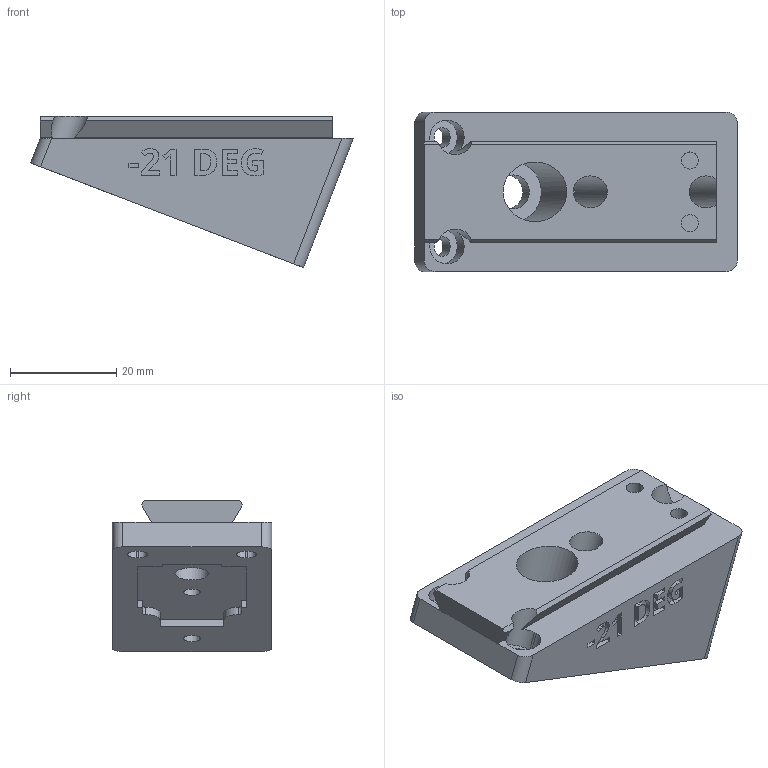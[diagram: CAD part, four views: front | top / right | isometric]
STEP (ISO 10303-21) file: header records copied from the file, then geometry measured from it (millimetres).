
FILE_DESCRIPTION(/* description */ ('STEP AP242 Edition 2','CAx-IF Rec.Pracs.---Representation and Presentation of Product Manufacturing Information (PMI)---4.0---2014-10-13','CAx-IF Rec.Pracs.---3D Tessellated Geometry---0.4---2014-09-14','2;1','CAx-IF Rec.Pracs.---User Defined Attributes---1.5---2016-08-15'),/* implementation_level */ '2;1');
FILE_NAME(/* name */ 'Camera Wedges - CAMERA MOUNTING WEDGE, NEG, -21 DEG',/* time_stamp */ '2026-07-08T20:35:31Z',/* author */ (''),/* organization */ (''),/* preprocessor_version */ 'ST-DEVELOPER v20',/* originating_system */ 'ONSHAPE BY PTC INC, 1.217',/* authorisation */ ' ');
FILE_SCHEMA (('AP242_MANAGED_MODEL_BASED_3D_ENGINEERING_MIM_LF { 1 0 10303 442 3 1 4 }'));
Length unit declared in the file: metre
Products named in the file (1): CAMERA MOUNTING WEDGE, NEG, -21 DEG
Bounding box: 60.7 x 30 x 28.47 mm (x, y, z)
Volume: 25759.4 mm3; surface area: 8569.2 mm2
Topology: 1 solids, 1 shells, 253 faces, 694 edges, 462 vertices
Faces by surface type: plane 155, cylinder 52, bspline 46
Full cylindrical faces by diameter (mm): 3.2 x4, 6 x2, 6.4 x1, 11.2 x1
Entity records: 8146 total; most frequent: CARTESIAN_POINT 1906, ORIENTED_EDGE 1370, DIRECTION 1126, EDGE_CURVE 685, LINE 476, VECTOR 476, VERTEX_POINT 461, AXIS2_PLACEMENT_3D 325
